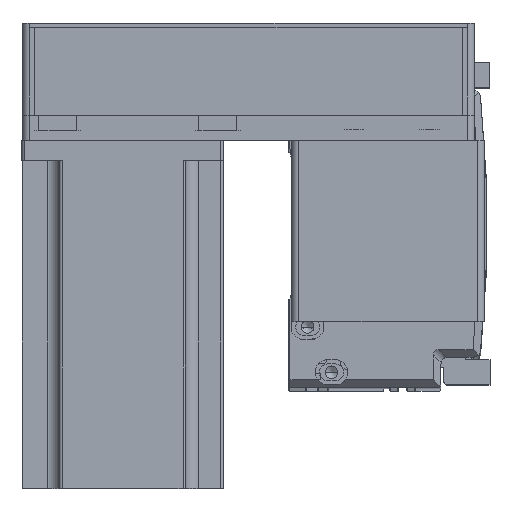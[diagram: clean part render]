
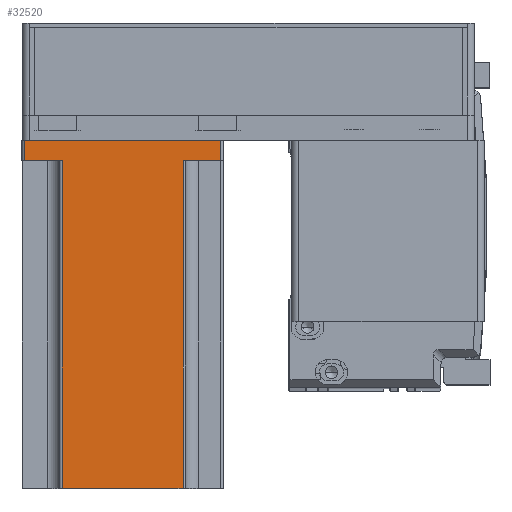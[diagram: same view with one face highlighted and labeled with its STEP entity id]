
A CAD part, top view. The second image highlights one B-rep face of the part: STEP entity #32520.
In plain terms, the highlighted planar face has unit normal (0, 0, 1) as drawn and (0, 1, 0) by its records, which use the part's own axes.
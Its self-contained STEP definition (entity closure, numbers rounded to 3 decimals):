
#1009 = EDGE_CURVE ( 'NONE', #16516, #8908, #37272, .T. ) ;
#3504 = DIRECTION ( 'NONE',  ( 0., 0., -1. ) ) ;
#4612 = EDGE_LOOP ( 'NONE', ( #36150, #48902, #36477, #17919, #42654, #7631, #8709, #44819 ) ) ;
#7631 = ORIENTED_EDGE ( 'NONE', *, *, #17939, .T. ) ;
#8083 = VECTOR ( 'NONE', #47484, 1000. ) ;
#8187 = LINE ( 'NONE', #42442, #18175 ) ;
#8296 = CARTESIAN_POINT ( 'NONE',  ( -24., 40., 138.3 ) ) ;
#8709 = ORIENTED_EDGE ( 'NONE', *, *, #10910, .T. ) ;
#8894 = CARTESIAN_POINT ( 'NONE',  ( -25., 40., 8. ) ) ;
#8908 = VERTEX_POINT ( 'NONE', #35639 ) ;
#10910 = EDGE_CURVE ( 'NONE', #16995, #11710, #8187, .T. ) ;
#11565 = EDGE_CURVE ( 'NONE', #26535, #15270, #19265, .T. ) ;
#11668 = CARTESIAN_POINT ( 'NONE',  ( -39., 40., 138.3 ) ) ;
#11710 = VERTEX_POINT ( 'NONE', #25790 ) ;
#12916 = CARTESIAN_POINT ( 'NONE',  ( 40., 40., 138.3 ) ) ;
#13393 = LINE ( 'NONE', #11668, #34590 ) ;
#15270 = VERTEX_POINT ( 'NONE', #47991 ) ;
#16516 = VERTEX_POINT ( 'NONE', #22104 ) ;
#16694 = DIRECTION ( 'NONE',  ( 1., 0., 0. ) ) ;
#16707 = VERTEX_POINT ( 'NONE', #8296 ) ;
#16995 = VERTEX_POINT ( 'NONE', #48658 ) ;
#17919 = ORIENTED_EDGE ( 'NONE', *, *, #37973, .T. ) ;
#17939 = EDGE_CURVE ( 'NONE', #26535, #16995, #44973, .T. ) ;
#18175 = VECTOR ( 'NONE', #27538, 1000. ) ;
#19265 = LINE ( 'NONE', #36065, #8083 ) ;
#19893 = DIRECTION ( 'NONE',  ( 0., 0., -1. ) ) ;
#20128 = VECTOR ( 'NONE', #19893, 1000. ) ;
#20894 = DIRECTION ( 'NONE',  ( -1., 0., 0. ) ) ;
#21050 = CARTESIAN_POINT ( 'NONE',  ( 40., 40., 138.3 ) ) ;
#21168 = LINE ( 'NONE', #21050, #41262 ) ;
#22104 = CARTESIAN_POINT ( 'NONE',  ( -39., 40., 8. ) ) ;
#22280 = CARTESIAN_POINT ( 'NONE',  ( 39., 40., 138.3 ) ) ;
#23614 = LINE ( 'NONE', #38421, #32423 ) ;
#25790 = CARTESIAN_POINT ( 'NONE',  ( -39., 40., 0. ) ) ;
#26535 = VERTEX_POINT ( 'NONE', #35915 ) ;
#26577 = VERTEX_POINT ( 'NONE', #36378 ) ;
#26811 = DIRECTION ( 'NONE',  ( 0., 0., 1. ) ) ;
#27240 = VECTOR ( 'NONE', #41312, 1000. ) ;
#27538 = DIRECTION ( 'NONE',  ( -1., 0., 0. ) ) ;
#30108 = LINE ( 'NONE', #46284, #20128 ) ;
#32423 = VECTOR ( 'NONE', #46023, 1000. ) ;
#32520 = ADVANCED_FACE ( 'NONE', ( #47033 ), #46749, .F. ) ;
#34590 = VECTOR ( 'NONE', #26811, 1000. ) ;
#34912 = VECTOR ( 'NONE', #3504, 1000. ) ;
#35639 = CARTESIAN_POINT ( 'NONE',  ( -24., 40., 8. ) ) ;
#35915 = CARTESIAN_POINT ( 'NONE',  ( 39., 40., 8. ) ) ;
#36065 = CARTESIAN_POINT ( 'NONE',  ( 25., 40., 8. ) ) ;
#36150 = ORIENTED_EDGE ( 'NONE', *, *, #1009, .T. ) ;
#36378 = CARTESIAN_POINT ( 'NONE',  ( 24., 40., 138.3 ) ) ;
#36477 = ORIENTED_EDGE ( 'NONE', *, *, #44832, .F. ) ;
#37272 = LINE ( 'NONE', #8894, #27240 ) ;
#37311 = EDGE_CURVE ( 'NONE', #8908, #16707, #23614, .T. ) ;
#37973 = EDGE_CURVE ( 'NONE', #26577, #15270, #30108, .T. ) ;
#38421 = CARTESIAN_POINT ( 'NONE',  ( -24., 40., 138.3 ) ) ;
#39306 = DIRECTION ( 'NONE',  ( 0., -1., 0. ) ) ;
#41262 = VECTOR ( 'NONE', #20894, 1000. ) ;
#41312 = DIRECTION ( 'NONE',  ( 1., 0., 0. ) ) ;
#42442 = CARTESIAN_POINT ( 'NONE',  ( 40., 40., 0. ) ) ;
#42654 = ORIENTED_EDGE ( 'NONE', *, *, #11565, .F. ) ;
#44819 = ORIENTED_EDGE ( 'NONE', *, *, #47700, .T. ) ;
#44832 = EDGE_CURVE ( 'NONE', #26577, #16707, #21168, .T. ) ;
#44973 = LINE ( 'NONE', #22280, #34912 ) ;
#46023 = DIRECTION ( 'NONE',  ( 0., 0., 1. ) ) ;
#46284 = CARTESIAN_POINT ( 'NONE',  ( 24., 40., 138.3 ) ) ;
#46749 = PLANE ( 'NONE',  #47905 ) ;
#47033 = FACE_OUTER_BOUND ( 'NONE', #4612, .T. ) ;
#47484 = DIRECTION ( 'NONE',  ( -1., 0., 0. ) ) ;
#47700 = EDGE_CURVE ( 'NONE', #11710, #16516, #13393, .T. ) ;
#47905 = AXIS2_PLACEMENT_3D ( 'NONE', #12916, #39306, #16694 ) ;
#47991 = CARTESIAN_POINT ( 'NONE',  ( 24., 40., 8. ) ) ;
#48658 = CARTESIAN_POINT ( 'NONE',  ( 39., 40., 0. ) ) ;
#48902 = ORIENTED_EDGE ( 'NONE', *, *, #37311, .T. ) ;
